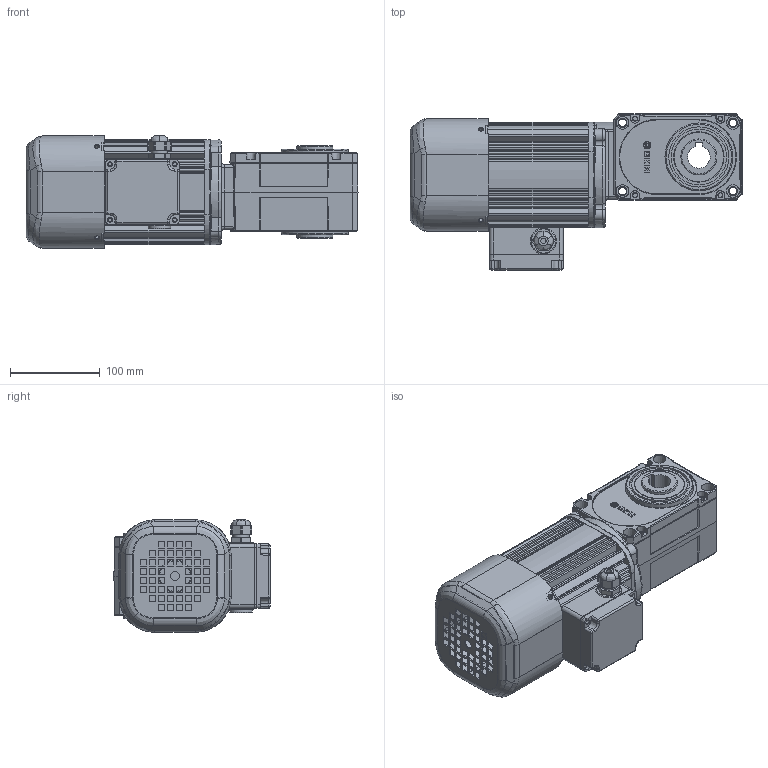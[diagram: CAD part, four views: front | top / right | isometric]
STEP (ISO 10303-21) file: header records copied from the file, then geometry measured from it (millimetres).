
FILE_DESCRIPTION (( 'STEP AP203' ), '1' );
FILE_NAME ('DSY25B-(7.5~30)B040-¤±.STEP', '2022-08-08T06:38:43', ( '' ), ( '' ), 'SwSTEP 2.0', 'SolidWorks 2018', '' );
FILE_SCHEMA (( 'CONFIG_CONTROL_DESIGN' ));
Length unit declared in the file: millimetre
Products named in the file (15): 堅鼠ぬ韁-鼻; 堅鼠ぬ韁-ж; 欽濠夢蝶 葆偃; 0.4KW 粽溯檜觼 賅攪; DKM 窜磊措 惑何荐沥档(20200120); 0.4kW 粽溯檜觼 の醴幗; CASE-DSY04S-DC; 欽濠夢蝶 ж 熱薑; DSY04S 馬樓晦; DKM 0.4kW 牢惯橇饭烙; DSY25B-(7.5~30)B040-仃; COVER-DSY04S-DC; Щ滓衛綰_ル遽; DKM 0.4kW 菴醴幗; 欽濠夢蝶 ASS''Y
Assembly tree (14 placements, depth 3):
  DSY25B-(7.5~30)B040-仃
    DSY04S 馬樓晦
      CASE-DSY04S-DC
      COVER-DSY04S-DC
    欽濠夢蝶 ASS''Y
      欽濠夢蝶 ж 熱薑
      Щ滓衛綰_ル遽
      欽濠夢蝶 葆偃
      堅鼠ぬ韁-鼻
      堅鼠ぬ韁-ж
      DKM 窜磊措 惑何荐沥档(20200120)
    0.4KW 粽溯檜觼 賅攪
      DKM 0.4kW 牢惯橇饭烙
      DKM 0.4kW 菴醴幗
      0.4kW 粽溯檜觼 の醴幗
Bounding box: 369.5 x 173.8 x 125.16 mm (x, y, z)
Volume: 3110397.8 mm3; surface area: 449085.4 mm2
Topology: 11 solids, 11 shells, 1687 faces, 4423 edges, 2785 vertices
Faces by surface type: plane 836, cylinder 514, bspline 211, cone 66, torus 59, sphere 1
Full cylindrical faces by diameter (mm): 0.2 x3, 3.017 x2, 3.981 x2, 4.2 x8, 4.3 x4, 4.5 x4, 5 x12, 5.3 x12, 5.5 x4, 6 x1, 8.5 x4, 10 x9, 10.8 x1, 14 x4, 16.5 x1, 18 x1, 19 x2, 20 x2, 25 x1, 35 x1, 40 x3, 55 x1, 62 x2, 67 x2, 94.1 x1
Entity records: 63796 total; most frequent: CARTESIAN_POINT 22212, ORIENTED_EDGE 8458, DIRECTION 7814, EDGE_CURVE 4229, VERTEX_POINT 2757, AXIS2_PLACEMENT_3D 2625, LINE 2564, VECTOR 2564
